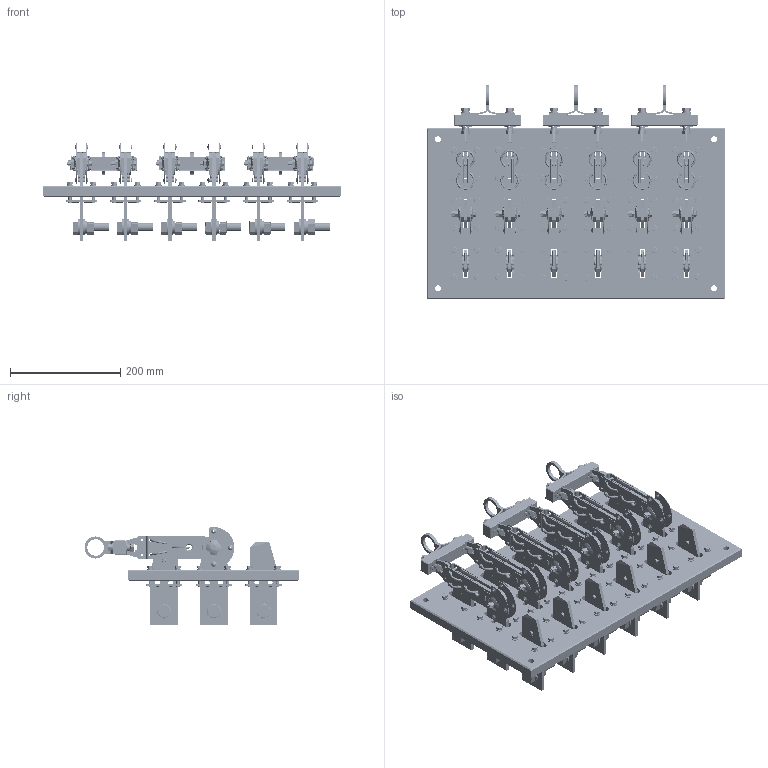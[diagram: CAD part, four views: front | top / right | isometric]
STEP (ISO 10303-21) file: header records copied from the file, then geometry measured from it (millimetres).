
FILE_DESCRIPTION (( 'STEP AP214' ), '1' );
FILE_NAME ('陓19-44(45-46)-72260.STEP', '2020-04-15T06:11:14', ( '砐錪賧瘔蠈錪' ), ( '' ), 'SwSTEP 2.0', 'SolidWorks 2010', '' );
FILE_SCHEMA (( 'AUTOMOTIVE_DESIGN' ));
Length unit declared in the file: millimetre
Products named in the file (1): 陓19-44(45-46)-72260
Bounding box: 540 x 389 x 177 mm (x, y, z)
Surface area: 1363216.2 mm2 (no closed solid volume)
Topology: 0 solids, 626 shells, 4555 faces, 14814 edges, 10655 vertices
Faces by surface type: plane 2097, cylinder 1627, cone 332, torus 238, sphere 222, bspline 39
Entity records: 223661 total; most frequent: CARTESIAN_POINT 43726, DIRECTION 28324, ORIENTED_EDGE 23144, EDGE_CURVE 14668, AXIS2_PLACEMENT_3D 10746, VERTEX_POINT 10583, VECTOR 6832, LINE 6832
